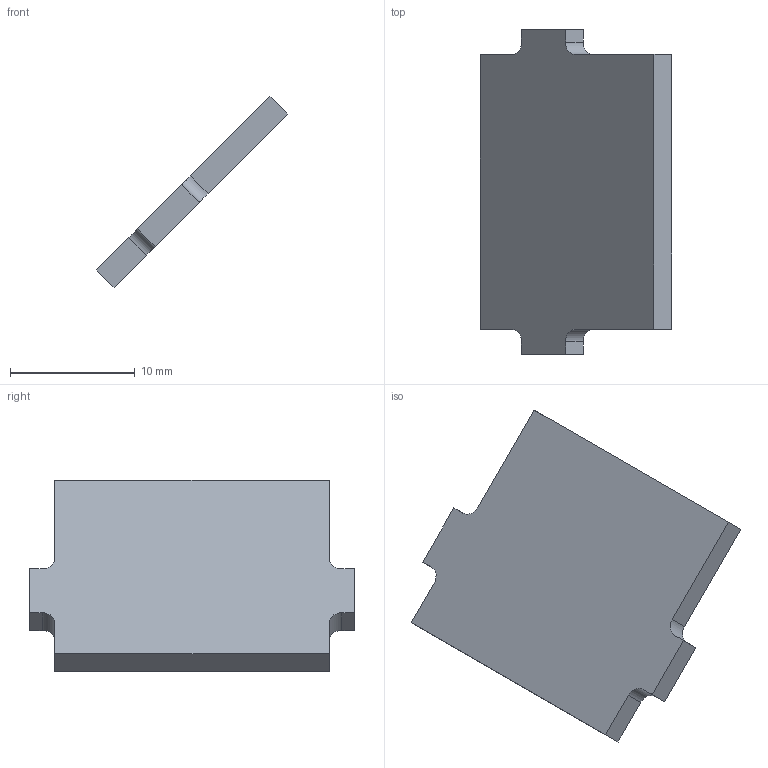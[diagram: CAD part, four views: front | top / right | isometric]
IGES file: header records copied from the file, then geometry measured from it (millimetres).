
Start section: START RECORD GO HERE.
Global section: file name: FR_10001_6 (Frame Brake).igs; native system: IBM CATIA IGES - CATIA Version 5 Release 19 ; preprocessor: CATIA Version 5 Release 19 ; author: jacqu; organization: ASUS-TUF-JACQUE; date: 20200226.092133; units: millimetre
Bounding box: 15.31 x 26 x 15.31 mm (x, y, z)
Surface area: 1085.7 mm2 (no closed solid volume)
Topology: 0 solids, 0 shells, 18 faces, 96 edges, 96 vertices
Faces by surface type: plane 14, revolution 4
